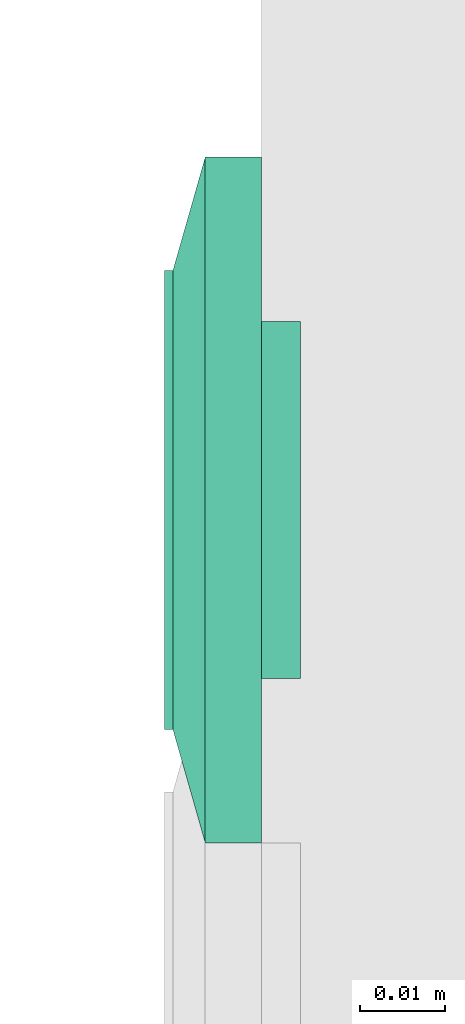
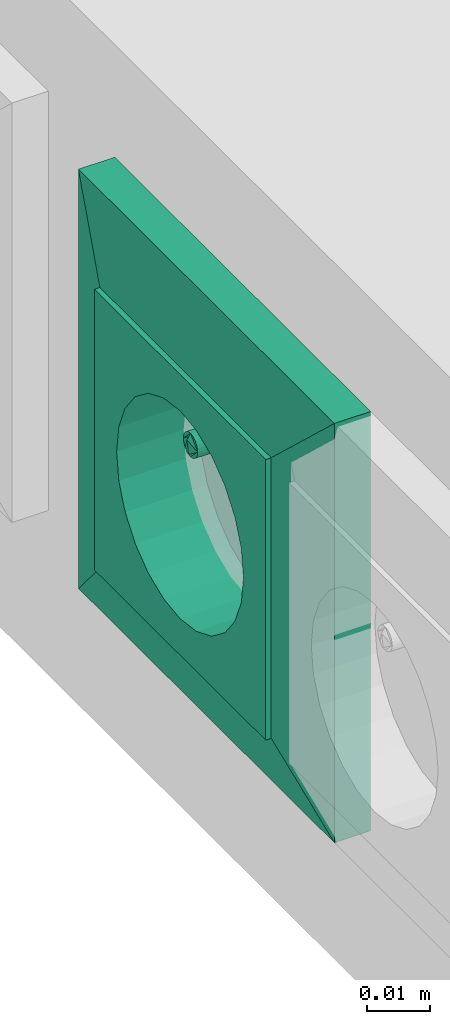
# One storey, part 87 of 166: 1 flow terminal.
"""IFC2X3 building model written with IfcOpenShell, lengths in metres."""

from ifc_helpers import new_model, entity, si_unit, converted_unit, derived_unit, direction, frame, origin, place, context, subcontext, project, spatial, face_set, surface_model, source, transform, mapped, type_object, type_shapes, element, save


model = new_model("IFC2X3")

# Units and contexts
model_context = context("Model", 3, precision=1e-05, world=origin(), true_north=direction((6.12303176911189e-17, 1.0)))
body_context = subcontext(model_context, "Body", "Model", "MODEL_VIEW")
ifc_project = project(units=[si_unit("LENGTHUNIT", "METRE"), si_unit("AREAUNIT", "SQUARE_METRE"), si_unit("VOLUMEUNIT", "CUBIC_METRE"), converted_unit("PLANEANGLEUNIT", "DEGREE", entity("IfcRatioMeasure", 0.0174532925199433), si_unit("PLANEANGLEUNIT", "RADIAN"), dimensions=[0, 0, 0, 0, 0, 0, 0]), si_unit("MASSUNIT", "GRAM", prefix="KILO"), derived_unit("MASSDENSITYUNIT", [(si_unit("MASSUNIT", "GRAM", prefix="KILO"), 1), (si_unit("LENGTHUNIT", "METRE"), -3)]), si_unit("TIMEUNIT", "SECOND"), si_unit("FREQUENCYUNIT", "HERTZ"), si_unit("THERMODYNAMICTEMPERATUREUNIT", "DEGREE_CELSIUS"), derived_unit("THERMALTRANSMITTANCEUNIT", [(si_unit("MASSUNIT", "GRAM", prefix="KILO"), 1), (si_unit("THERMODYNAMICTEMPERATUREUNIT", "KELVIN"), -1), (si_unit("TIMEUNIT", "SECOND"), -3)]), derived_unit("VOLUMETRICFLOWRATEUNIT", [(si_unit("LENGTHUNIT", "METRE"), 3), (si_unit("TIMEUNIT", "SECOND"), -1)]), si_unit("ELECTRICCURRENTUNIT", "AMPERE"), si_unit("ELECTRICVOLTAGEUNIT", "VOLT"), si_unit("POWERUNIT", "WATT"), si_unit("FORCEUNIT", "NEWTON"), si_unit("ILLUMINANCEUNIT", "LUX"), si_unit("LUMINOUSFLUXUNIT", "LUMEN"), si_unit("LUMINOUSINTENSITYUNIT", "CANDELA"), derived_unit("USERDEFINED", [(si_unit("MASSUNIT", "GRAM", prefix="KILO"), -1), (si_unit("LENGTHUNIT", "METRE"), -2), (si_unit("TIMEUNIT", "SECOND"), 3), (si_unit("LUMINOUSFLUXUNIT", "LUMEN"), 1)]), derived_unit("LINEARVELOCITYUNIT", [(si_unit("LENGTHUNIT", "METRE"), 1), (si_unit("TIMEUNIT", "SECOND"), -1)]), si_unit("PRESSUREUNIT", "PASCAL"), derived_unit("USERDEFINED", [(si_unit("LENGTHUNIT", "METRE"), -2), (si_unit("MASSUNIT", "GRAM", prefix="KILO"), 1), (si_unit("TIMEUNIT", "SECOND"), -2)])], contexts=[model_context])

# Site, building, storey
site_placement = place(None, origin())
site = spatial("IfcSite", under=ifc_project, at=site_placement, Name="Default", CompositionType="ELEMENT")
building_placement = place(site_placement, origin())
building = spatial("IfcBuilding", under=site, at=building_placement, CompositionType="ELEMENT")
storey_placement = place(building_placement, frame((0.0, 0.0, 4.27)))
storey = spatial("IfcBuildingStorey", under=building, at=storey_placement, Name="01", CompositionType="ELEMENT", Elevation=4.27)

# Flow terminal
light_fixture_type = type_object("IfcLightFixtureType", Name="PC IP20", PredefinedType="NOTDEFINED")
shared_shape = source(origin(), body_context, "Body", "SurfaceModel", [
    surface_model("IfcFaceBasedSurfaceModel", [(-0.00225000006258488, 0.0127499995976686, 0.00949633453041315), (0.0, 0.0104999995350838, 0.00949633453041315), (0.0, 0.0115376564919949, 0.0101656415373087), (0.0, 0.0139623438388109, 0.0101656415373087), (0.0, 0.0144589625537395, 0.00984531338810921), (0.0, 0.0121178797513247, 0.0102778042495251), (0.0, 0.0133821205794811, 0.0102778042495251), (0.0, 0.0127499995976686, 0.010399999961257), (0.0, 0.0149999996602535, 0.00949633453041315), (0.00225000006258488, 0.0127499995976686, 0.00949633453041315), (0.0, 0.0110410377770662, 0.00984531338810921), (0.0, 0.0127499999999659, 0.00949633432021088), (0.00225000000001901, 0.0127499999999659, 0.00949633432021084), (0.00217333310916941, 0.0121676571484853, 0.00949633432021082), (0.00194855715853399, 0.0116249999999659, 0.00949633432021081), (0.00159099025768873, 0.0111590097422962, 0.00949633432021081), (0.001125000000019, 0.010801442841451, 0.00949633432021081), (0.00058234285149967, 0.0105766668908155, 0.00949633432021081), (0.0, 0.0104999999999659, 0.00949633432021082), (-0.000582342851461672, 0.0105766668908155, 0.00949633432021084), (-0.001124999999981, 0.010801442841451, 0.00949633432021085), (-0.00159099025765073, 0.0111590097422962, 0.00949633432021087), (-0.00194855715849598, 0.011624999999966, 0.00949633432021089), (-0.0021733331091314, 0.0121676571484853, 0.00949633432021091), (-0.00224999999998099, 0.012749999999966, 0.00949633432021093), (-0.00217333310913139, 0.0133323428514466, 0.00949633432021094), (-0.00194855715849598, 0.013874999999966, 0.00949633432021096), (-0.00159099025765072, 0.0143409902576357, 0.00949633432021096), (-0.00112499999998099, 0.0146985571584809, 0.00949633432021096), (-0.00058234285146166, 0.0149233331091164, 0.00949633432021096), (0.0, 0.0149999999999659, 0.00949633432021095), (0.000582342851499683, 0.0149233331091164, 0.00949633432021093), (0.00112500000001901, 0.0146985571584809, 0.00949633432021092), (0.00159099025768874, 0.0143409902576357, 0.00949633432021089), (0.001948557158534, 0.0138749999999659, 0.00949633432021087), (0.00217333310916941, 0.0133323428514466, 0.00949633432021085), (0.00225000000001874, 0.0127499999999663, -0.00360000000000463), (0.00217333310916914, 0.0121676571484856, -0.00360000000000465), (0.00194855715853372, 0.0116249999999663, -0.00360000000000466), (0.00159099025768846, 0.0111590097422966, -0.00360000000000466), (0.00112500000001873, 0.0108014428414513, -0.00360000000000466), (0.000582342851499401, 0.0105766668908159, -0.00360000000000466), (0.0, 0.0104999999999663, -0.00360000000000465), (-0.000582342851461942, 0.0105766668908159, -0.00360000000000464), (-0.00112499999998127, 0.0108014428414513, -0.00360000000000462), (-0.001590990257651, 0.0111590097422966, -0.0036000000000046), (-0.00194855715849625, 0.0116249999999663, -0.00360000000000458), (-0.00217333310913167, 0.0121676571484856, -0.00360000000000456), (-0.00224999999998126, 0.0127499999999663, -0.00360000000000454), (-0.00217333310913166, 0.013332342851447, -0.00360000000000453), (-0.00194855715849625, 0.0138749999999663, -0.00360000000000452), (-0.00159099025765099, 0.014340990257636, -0.00360000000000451), (-0.00112499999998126, 0.0146985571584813, -0.00360000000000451), (-0.000582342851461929, 0.0149233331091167, -0.00360000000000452), (0.0, 0.0149999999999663, -0.00360000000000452), (0.000582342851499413, 0.0149233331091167, -0.00360000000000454), (0.00112500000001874, 0.0146985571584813, -0.00360000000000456), (0.00159099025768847, 0.014340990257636, -0.00360000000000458), (0.00194855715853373, 0.0138749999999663, -0.0036000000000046), (0.00217333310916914, 0.013332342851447, -0.00360000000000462), (0.0270000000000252, 0.026999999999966, 0.0113999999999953), (-0.0269999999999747, 0.026999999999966, 0.0113999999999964), (-0.0269999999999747, -0.0270000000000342, 0.0113999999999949), (0.0270000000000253, -0.0270000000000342, 0.0113999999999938), (-0.0199999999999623, 0.0, 0.0113999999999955), (-0.0193185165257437, -0.00517638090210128, 0.0113999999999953), (-0.0173205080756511, -0.0100000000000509, 0.0113999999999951), (-0.0141421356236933, -0.0141421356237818, 0.011399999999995), (-0.00999999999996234, -0.0173205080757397, 0.0113999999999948), (-0.00517638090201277, -0.0193185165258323, 0.0113999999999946), (0.0, -0.0200000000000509, 0.0113999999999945), (0.00517638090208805, -0.0193185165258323, 0.0113999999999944), (0.0100000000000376, -0.0173205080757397, 0.0113999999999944), (0.0141421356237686, -0.0141421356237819, 0.0113999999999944), (0.0173205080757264, -0.010000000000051, 0.0113999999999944), (0.0193185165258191, -0.00517638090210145, 0.0113999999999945), (0.0200000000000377, 0.0, 0.0113999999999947), (0.0193185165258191, 0.00517638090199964, 0.0113999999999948), (0.0173205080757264, 0.0099999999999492, 0.011399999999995), (0.0141421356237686, 0.0141421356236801, 0.0113999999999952), (0.0100000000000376, 0.0173205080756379, 0.0113999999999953), (0.00517638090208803, 0.0193185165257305, 0.0113999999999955), (0.0, 0.0199999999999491, 0.0113999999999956), (-0.00517638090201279, 0.0193185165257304, 0.0113999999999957), (-0.00999999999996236, 0.0173205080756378, 0.0113999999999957), (-0.0141421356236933, 0.01414213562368, 0.0113999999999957), (-0.0173205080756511, 0.00999999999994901, 0.0113999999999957), (-0.0193185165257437, 0.00517638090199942, 0.0113999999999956), (0.0270000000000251, 0.0269999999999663, 0.00199999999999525), (0.0270000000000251, -0.0270000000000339, 0.00199999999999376), (-0.0269999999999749, -0.0270000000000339, 0.00199999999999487), (-0.0269999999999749, 0.0269999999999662, 0.00199999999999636), (0.0210000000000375, 0.0, 0.00199999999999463), (0.0202844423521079, -0.00543519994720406, 0.00199999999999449), (0.0181865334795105, -0.0105000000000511, 0.0019999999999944), (0.0148492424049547, -0.0148492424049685, 0.00199999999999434), (0.0105000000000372, -0.0181865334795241, 0.00199999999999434), (0.0054351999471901, -0.0202844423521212, 0.00199999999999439), (0.0, -0.0210000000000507, 0.00199999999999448), (-0.00543519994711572, -0.020284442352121, 0.00199999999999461), (-0.0104999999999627, -0.0181865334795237, 0.00199999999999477), (-0.0148492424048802, -0.014849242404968, 0.00199999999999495), (-0.0181865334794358, -0.0105000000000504, 0.00199999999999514), (-0.020284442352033, -0.00543519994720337, 0.00199999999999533), (-0.0209999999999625, 0.0, 0.00199999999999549), (-0.0202844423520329, 0.0054351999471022, 0.00199999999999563), (-0.0181865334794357, 0.0104999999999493, 0.00199999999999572), (-0.01484924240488, 0.0148492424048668, 0.00199999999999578), (-0.0104999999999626, 0.0181865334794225, 0.00199999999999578), (-0.00543519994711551, 0.0202844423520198, 0.00199999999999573), (0.0, 0.0209999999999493, 0.00199999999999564), (0.00543519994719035, 0.0202844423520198, 0.00199999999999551), (0.0105000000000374, 0.0181865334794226, 0.00199999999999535), (0.0148492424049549, 0.0148492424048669, 0.00199999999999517), (0.0181865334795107, 0.0104999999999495, 0.00199999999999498), (0.0202844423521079, 0.00543519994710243, 0.00199999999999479), (0.0200000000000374, 0.0, -0.00360000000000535), (0.0193185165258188, -0.00517638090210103, -0.00360000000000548), (0.0173205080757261, -0.0100000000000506, -0.00360000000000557), (0.0141421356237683, -0.0141421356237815, -0.00360000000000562), (0.0100000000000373, -0.0173205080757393, -0.00360000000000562), (0.00517638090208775, -0.0193185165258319, -0.00360000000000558), (0.0, -0.0200000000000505, -0.00360000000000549), (-0.00517638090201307, -0.0193185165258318, -0.00360000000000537), (-0.00999999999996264, -0.0173205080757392, -0.00360000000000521), (-0.0141421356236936, -0.0141421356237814, -0.00360000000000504), (-0.0173205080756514, -0.0100000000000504, -0.00360000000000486), (-0.019318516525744, -0.00517638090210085, -0.00360000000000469), (-0.0199999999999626, 0.0, -0.00360000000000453), (-0.0193185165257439, 0.00517638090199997, -0.0036000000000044), (-0.0173205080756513, 0.00999999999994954, -0.00360000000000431), (-0.0141421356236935, 0.0141421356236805, -0.00360000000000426), (-0.00999999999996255, 0.0173205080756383, -0.00360000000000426), (-0.00517638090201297, 0.0193185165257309, -0.0036000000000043), (0.0, 0.0199999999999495, -0.00360000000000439), (0.00517638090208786, 0.0193185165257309, -0.00360000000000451), (0.0100000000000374, 0.0173205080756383, -0.00360000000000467), (0.0141421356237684, 0.0141421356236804, -0.00360000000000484), (0.0173205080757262, 0.0099999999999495, -0.00360000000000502), (0.0193185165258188, 0.00517638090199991, -0.00360000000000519), (-0.0123499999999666, 0.0, -0.00360000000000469), (-0.0122562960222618, -0.000711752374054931, -0.00360000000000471), (-0.0119815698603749, -0.00137500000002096, -0.00360000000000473), (-0.0115445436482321, -0.00194454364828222, -0.00360000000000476), (-0.0109749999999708, -0.00238156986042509, -0.00360000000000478), (-0.0103117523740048, -0.00265629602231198, -0.0036000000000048), (-0.00959999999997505, -0.00275000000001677, -0.00360000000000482), (-0.0088882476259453, -0.00265629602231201, -0.00360000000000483), (-0.00822499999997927, -0.00238156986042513, -0.00360000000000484), (-0.00765545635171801, -0.00194454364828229, -0.00360000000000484), (-0.00721843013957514, -0.00137500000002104, -0.00360000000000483), (-0.00694370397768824, -0.000711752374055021, -0.00360000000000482), (-0.00684999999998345, 0.0, -0.0036000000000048), (-0.00694370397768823, 0.000711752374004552, -0.00360000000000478), (-0.00721843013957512, 0.00137499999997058, -0.00360000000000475), (-0.00765545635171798, 0.00194454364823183, -0.00360000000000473), (-0.00822499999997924, 0.00238156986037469, -0.0036000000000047), (-0.00888824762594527, 0.00265629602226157, -0.00360000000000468), (-0.00959999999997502, 0.00274999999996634, -0.00360000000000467), (-0.0103117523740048, 0.00265629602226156, -0.00360000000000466), (-0.0109749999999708, 0.00238156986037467, -0.00360000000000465), (-0.011544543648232, 0.00194454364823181, -0.00360000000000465), (-0.0119815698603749, 0.00137499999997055, -0.00360000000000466), (-0.0122562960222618, 0.000711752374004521, -0.00360000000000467), (0.00685000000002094, 0.0, -0.00360000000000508), (0.0069437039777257, -0.00071175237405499, -0.0036000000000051), (0.00721843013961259, -0.00137500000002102, -0.00360000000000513), (0.00765545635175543, -0.00194454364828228, -0.00360000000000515), (0.00822500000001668, -0.00238156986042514, -0.00360000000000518), (0.00888824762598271, -0.00265629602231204, -0.0036000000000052), (0.00960000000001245, -0.00275000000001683, -0.00360000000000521), (0.0103117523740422, -0.00265629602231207, -0.00360000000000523), (0.0109750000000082, -0.00238156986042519, -0.00360000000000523), (0.0115445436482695, -0.00194454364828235, -0.00360000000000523), (0.0119815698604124, -0.0013750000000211, -0.00360000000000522), (0.0122562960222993, -0.00071175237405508, -0.00360000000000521), (0.012350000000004, 0.0, -0.00360000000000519), (0.0122562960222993, 0.000711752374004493, -0.00360000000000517), (0.0119815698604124, 0.00137499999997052, -0.00360000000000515), (0.0115445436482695, 0.00194454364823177, -0.00360000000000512), (0.0109750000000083, 0.00238156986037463, -0.0036000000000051), (0.0103117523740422, 0.00265629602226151, -0.00360000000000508), (0.00960000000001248, 0.00274999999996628, -0.00360000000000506), (0.00888824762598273, 0.0026562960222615, -0.00360000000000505), (0.0082250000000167, 0.00238156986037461, -0.00360000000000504), (0.00765545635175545, 0.00194454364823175, -0.00360000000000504), (0.0072184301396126, 0.00137499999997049, -0.00360000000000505), (0.00694370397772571, 0.000711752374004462, -0.00360000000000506), (0.0210000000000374, 0.0, -0.00460000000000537), (0.0202844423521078, -0.00543519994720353, -0.00460000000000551), (0.0181865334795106, -0.0105000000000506, -0.0046000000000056), (0.0148492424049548, -0.0148492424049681, -0.00460000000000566), (0.0105000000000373, -0.0181865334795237, -0.00460000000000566), (0.00543519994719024, -0.0202844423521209, -0.00460000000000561), (0.0, -0.0210000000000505, -0.00460000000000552), (-0.00543519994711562, -0.0202844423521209, -0.00460000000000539), (-0.0104999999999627, -0.0181865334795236, -0.00460000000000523), (-0.0148492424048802, -0.0148492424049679, -0.00460000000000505), (-0.0181865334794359, -0.0105000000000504, -0.00460000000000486), (-0.0202844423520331, -0.00543519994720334, -0.00460000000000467), (-0.0209999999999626, 0.0, -0.00460000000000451), (-0.020284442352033, 0.00543519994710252, -0.00460000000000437), (-0.0181865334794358, 0.0104999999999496, -0.00460000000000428), (-0.0148492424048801, 0.0148492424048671, -0.00460000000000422), (-0.0104999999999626, 0.0181865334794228, -0.00460000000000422), (-0.00543519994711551, 0.02028444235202, -0.00460000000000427), (0.0, 0.0209999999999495, -0.00460000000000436), (0.00543519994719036, 0.02028444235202, -0.00460000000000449), (0.0105000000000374, 0.0181865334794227, -0.00460000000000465), (0.0148492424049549, 0.014849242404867, -0.00460000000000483), (0.0181865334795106, 0.0104999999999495, -0.00460000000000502), (0.0202844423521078, 0.00543519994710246, -0.00460000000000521), (-0.00684999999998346, 0.0, -0.0046000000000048), (-0.00694370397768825, 0.000711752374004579, -0.00460000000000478), (-0.00721843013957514, 0.00137499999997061, -0.00460000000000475), (-0.007655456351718, 0.00194454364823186, -0.00460000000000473), (-0.00822499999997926, 0.00238156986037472, -0.0046000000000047), (-0.00888824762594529, 0.0026562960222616, -0.00460000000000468), (-0.00959999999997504, 0.00274999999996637, -0.00460000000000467), (-0.0103117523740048, 0.00265629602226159, -0.00460000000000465), (-0.0109749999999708, 0.0023815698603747, -0.00460000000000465), (-0.0115445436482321, 0.00194454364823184, -0.00460000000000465), (-0.0119815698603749, 0.00137499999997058, -0.00460000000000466), (-0.0122562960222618, 0.000711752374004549, -0.00460000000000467), (-0.0123499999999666, 0.0, -0.00460000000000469), (-0.0122562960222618, -0.000711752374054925, -0.00460000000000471), (-0.0119815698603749, -0.00137500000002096, -0.00460000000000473), (-0.0115445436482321, -0.00194454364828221, -0.00460000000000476), (-0.0109749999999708, -0.00238156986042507, -0.00460000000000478), (-0.0103117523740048, -0.00265629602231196, -0.0046000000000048), (-0.00959999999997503, -0.00275000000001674, -0.00460000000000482), (-0.00888824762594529, -0.00265629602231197, -0.00460000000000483), (-0.00822499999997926, -0.00238156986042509, -0.00460000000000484), (-0.007655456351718, -0.00194454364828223, -0.00460000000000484), (-0.00721843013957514, -0.00137500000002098, -0.00460000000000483), (-0.00694370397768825, -0.000711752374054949, -0.00460000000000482), (0.012350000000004, 0.0, -0.00460000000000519), (0.0122562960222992, 0.000711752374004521, -0.00460000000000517), (0.0119815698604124, 0.00137499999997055, -0.00460000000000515), (0.0115445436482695, 0.0019445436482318, -0.00460000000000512), (0.0109750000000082, 0.00238156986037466, -0.0046000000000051), (0.0103117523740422, 0.00265629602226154, -0.00460000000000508), (0.00960000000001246, 0.00274999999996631, -0.00460000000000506), (0.00888824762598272, 0.00265629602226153, -0.00460000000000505), (0.00822500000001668, 0.00238156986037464, -0.00460000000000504), (0.00765545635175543, 0.00194454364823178, -0.00460000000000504), (0.00721843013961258, 0.00137499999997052, -0.00460000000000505), (0.00694370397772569, 0.00071175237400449, -0.00460000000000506), (0.00685000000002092, 0.0, -0.00460000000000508), (0.00694370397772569, -0.000711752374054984, -0.0046000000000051), (0.00721843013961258, -0.00137500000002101, -0.00460000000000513), (0.00765545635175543, -0.00194454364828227, -0.00460000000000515), (0.00822500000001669, -0.00238156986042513, -0.00460000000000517), (0.00888824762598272, -0.00265629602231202, -0.0046000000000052), (0.00960000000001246, -0.0027500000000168, -0.00460000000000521), (0.0103117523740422, -0.00265629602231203, -0.00460000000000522), (0.0109750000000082, -0.00238156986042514, -0.00460000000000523), (0.0115445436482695, -0.00194454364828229, -0.00460000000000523), (0.0119815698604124, -0.00137500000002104, -0.00460000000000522), (0.0122562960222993, -0.000711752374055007, -0.00460000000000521), (0.040350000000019, 0.0403499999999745, 0.00659999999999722), (0.040350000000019, -0.0403500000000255, 0.00659999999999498), (-0.0403499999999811, -0.0403500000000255, 0.00659999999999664), (-0.0403499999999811, 0.0403499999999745, 0.00659999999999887), (0.027000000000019, 0.0269999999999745, 0.00659999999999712), (-0.0269999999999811, 0.0269999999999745, 0.00659999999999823), (-0.026999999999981, -0.0270000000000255, 0.00659999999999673), (0.027000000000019, -0.0270000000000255, 0.00659999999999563), (0.027000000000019, 0.0269999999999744, 0.0103999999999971), (-0.026999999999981, 0.0269999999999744, 0.0103999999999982), (-0.026999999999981, -0.0270000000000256, 0.0103999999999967), (0.027000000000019, -0.0270000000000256, 0.0103999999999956), (0.040350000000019, 0.0403499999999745, 0.00659999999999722), (0.040350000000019, -0.0403500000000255, 0.00659999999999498), (-0.0403499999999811, -0.0403500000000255, 0.00659999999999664), (-0.0403499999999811, 0.0403499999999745, 0.00659999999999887), (-0.0269999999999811, 0.0269999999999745, 0.00659999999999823), (-0.0269999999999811, -0.0270000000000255, 0.00659999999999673), (0.0270000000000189, -0.0270000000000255, 0.00659999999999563), (0.0270000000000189, 0.0269999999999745, 0.00659999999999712), (0.0403500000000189, 0.0403499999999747, 0.0), (0.0403500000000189, -0.0403500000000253, 0.0), (-0.0403499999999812, -0.0403500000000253, 0.0), (-0.0403499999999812, 0.0403499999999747, 0.0), (0.0270000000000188, 0.0269999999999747, 0.0), (-0.0269999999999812, 0.0269999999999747, 0.0), (-0.0269999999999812, -0.0270000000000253, 0.0), (0.0270000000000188, -0.0270000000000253, 0.0)], [face_set([[[0, 1, 2]], [[3, 4, 2, 5]], [[6, 3, 5, 7]], [[2, 4, 0]], [[4, 8, 0]], [[3, 9, 8]], [[1, 9, 10]], [[2, 3, 6, 7]], [[3, 10, 9]], [[2, 10, 3]], [[11, 1, 0, 8]], [[11, 8, 9, 1]]]), face_set([[[12, 13, 14, 15, 16, 17, 18, 19, 20, 21, 22, 23, 24, 25, 26, 27, 28, 29, 30, 31, 32, 33, 34, 35]], [[36, 37, 38, 39, 40, 41, 42, 43, 44, 45, 46, 47, 48, 49, 50, 51, 52, 53, 54, 55, 56, 57, 58, 59]], [[48, 47, 23, 24]], [[47, 46, 22, 23]], [[45, 44, 20, 21]], [[46, 45, 21, 22]], [[44, 43, 19, 20]], [[18, 19, 43, 42]], [[42, 41, 17, 18]], [[41, 40, 16, 17]], [[39, 38, 14, 15]], [[40, 39, 15, 16]], [[38, 37, 13, 14]], [[12, 13, 37, 36]], [[36, 59, 35, 12]], [[59, 58, 34, 35]], [[57, 56, 32, 33]], [[58, 57, 33, 34]], [[56, 55, 31, 32]], [[30, 31, 55, 54]], [[54, 53, 29, 30]], [[53, 52, 28, 29]], [[51, 50, 26, 27]], [[52, 51, 27, 28]], [[50, 49, 25, 26]], [[24, 25, 49, 48]]]), face_set([[[60, 61, 62, 63], [64, 65, 66, 67, 68, 69, 70, 71, 72, 73, 74, 75, 76, 77, 78, 79, 80, 81, 82, 83, 84, 85, 86, 87]], [[88, 89, 90, 91], [92, 93, 94, 95, 96, 97, 98, 99, 100, 101, 102, 103, 104, 105, 106, 107, 108, 109, 110, 111, 112, 113, 114, 115]], [[61, 60, 88, 91]], [[62, 61, 91, 90]], [[63, 62, 90, 89]], [[60, 63, 89, 88]], [[116, 117, 118, 119, 120, 121, 122, 123, 124, 125, 126, 127, 128, 129, 130, 131, 132, 133, 134, 135, 136, 137, 138, 139], [140, 141, 142, 143, 144, 145, 146, 147, 148, 149, 150, 151, 152, 153, 154, 155, 156, 157, 158, 159, 160, 161, 162, 163], [164, 165, 166, 167, 168, 169, 170, 171, 172, 173, 174, 175, 176, 177, 178, 179, 180, 181, 182, 183, 184, 185, 186, 187]], [[64, 128, 127, 65]], [[65, 127, 126, 66]], [[67, 125, 124, 68]], [[66, 126, 125, 67]], [[68, 124, 123, 69]], [[122, 70, 69, 123]], [[70, 122, 121, 71]], [[71, 121, 120, 72]], [[73, 119, 118, 74]], [[72, 120, 119, 73]], [[74, 118, 117, 75]], [[116, 76, 75, 117]], [[76, 116, 139, 77]], [[77, 139, 138, 78]], [[79, 137, 136, 80]], [[78, 138, 137, 79]], [[80, 136, 135, 81]], [[134, 82, 81, 135]], [[82, 134, 133, 83]], [[83, 133, 132, 84]], [[84, 132, 131, 85]], [[85, 131, 130, 86]], [[130, 129, 87, 86]], [[64, 87, 129, 128]], [[188, 189, 190, 191, 192, 193, 194, 195, 196, 197, 198, 199, 200, 201, 202, 203, 204, 205, 206, 207, 208, 209, 210, 211], [212, 213, 214, 215, 216, 217, 218, 219, 220, 221, 222, 223, 224, 225, 226, 227, 228, 229, 230, 231, 232, 233, 234, 235], [236, 237, 238, 239, 240, 241, 242, 243, 244, 245, 246, 247, 248, 249, 250, 251, 252, 253, 254, 255, 256, 257, 258, 259]], [[200, 199, 103, 104]], [[199, 198, 102, 103]], [[197, 196, 100, 101]], [[198, 197, 101, 102]], [[196, 195, 99, 100]], [[98, 99, 195, 194]], [[194, 193, 97, 98]], [[193, 192, 96, 97]], [[191, 190, 94, 95]], [[192, 191, 95, 96]], [[190, 189, 93, 94]], [[92, 93, 189, 188]], [[188, 211, 115, 92]], [[211, 210, 114, 115]], [[209, 208, 112, 113]], [[210, 209, 113, 114]], [[208, 207, 111, 112]], [[110, 111, 207, 206]], [[206, 205, 109, 110]], [[205, 204, 108, 109]], [[203, 202, 106, 107]], [[204, 203, 107, 108]], [[202, 201, 105, 106]], [[104, 105, 201, 200]], [[141, 225, 226, 142]], [[140, 224, 225, 141]], [[144, 228, 229, 145]], [[143, 227, 228, 144]], [[142, 226, 227, 143]], [[230, 146, 145, 229]], [[149, 233, 232, 148]], [[148, 232, 231, 147]], [[152, 212, 235, 151]], [[151, 235, 234, 150]], [[150, 234, 233, 149]], [[146, 230, 231, 147]], [[154, 214, 213, 153]], [[153, 213, 212, 152]], [[157, 217, 216, 156]], [[156, 216, 215, 155]], [[155, 215, 214, 154]], [[218, 158, 157, 217]], [[160, 220, 221, 161]], [[159, 219, 220, 160]], [[163, 223, 224, 140]], [[162, 222, 223, 163]], [[161, 221, 222, 162]], [[158, 218, 219, 159]], [[166, 250, 249, 165]], [[165, 249, 248, 164]], [[169, 253, 252, 168]], [[168, 252, 251, 167]], [[167, 251, 250, 166]], [[254, 170, 169, 253]], [[172, 256, 257, 173]], [[171, 255, 256, 172]], [[175, 259, 236, 176]], [[174, 258, 259, 175]], [[173, 257, 258, 174]], [[170, 254, 255, 171]], [[177, 237, 238, 178]], [[176, 236, 237, 177]], [[180, 240, 241, 181]], [[179, 239, 240, 180]], [[178, 238, 239, 179]], [[242, 182, 181, 241]], [[185, 245, 244, 184]], [[184, 244, 243, 183]], [[164, 248, 247, 187]], [[187, 247, 246, 186]], [[186, 246, 245, 185]], [[182, 242, 243, 183]]]), face_set([[[260, 261, 262, 263], [264, 265, 266, 267]], [[260, 268, 269, 263]], [[263, 269, 270, 262]], [[262, 270, 271, 261]], [[261, 271, 268, 260]], [[264, 265, 269, 268]], [[265, 266, 270, 269]], [[266, 267, 271, 270]], [[268, 271, 267, 264]]]), face_set([[[272, 273, 274, 275], [276, 277, 278, 279]], [[280, 281, 282, 283], [284, 285, 286, 287]], [[275, 272, 280, 283]], [[274, 275, 283, 282]], [[273, 274, 282, 281]], [[272, 273, 281, 280]], [[284, 285, 276, 279]], [[285, 286, 277, 276]], [[286, 287, 278, 277]], [[279, 278, 287, 284]]])]),
])
type_shapes(light_fixture_type, [shared_shape])
flow_terminal_placement = place(storey_placement, frame((53.3787436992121, -191.22761015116, 0.438000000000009), z_axis=(-1.0, 0.0, 0.0), x_axis=(0.0, -1.0, 0.0)))
element("IfcFlowTerminal", 1, at=flow_terminal_placement, inside=storey, type_object=light_fixture_type, Name="INT Prise de courant:PC IP20", ObjectType="INT Prise de courant:PC IP20", context=body_context, shape_type="MappedRepresentation", body=[
    mapped(shared_shape, transform((0.0, 0.0, 0.0), scale=1.0)),
])

save(model, "model.ifc")
